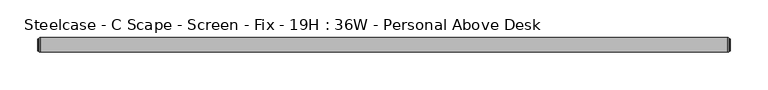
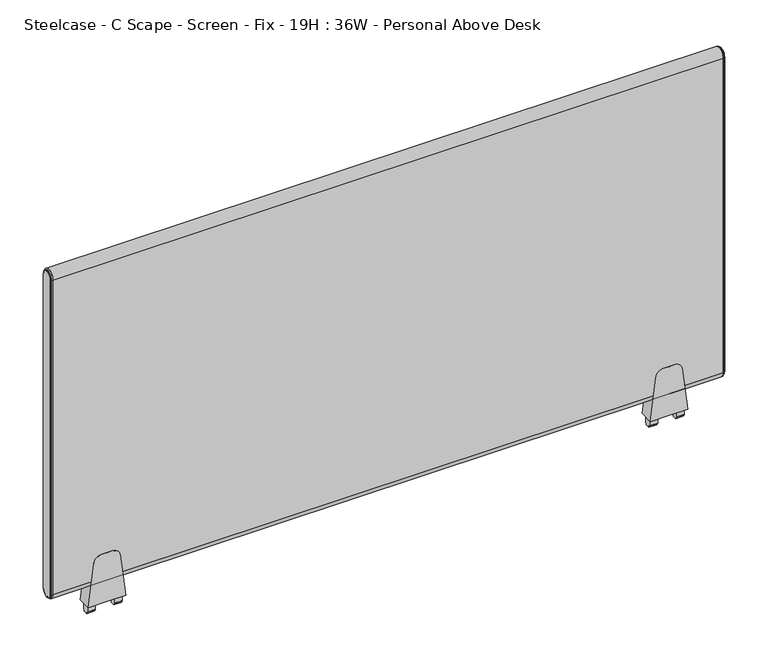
"""IFC4 building model written with IfcOpenShell, lengths in millimetres: furniture geometry, Steelcase - C Scape - Screen - Fix - 19H : 36W - Personal Above Desk."""

from ifc_helpers import new_model, si_unit, point, frame, frame_2d, origin, place, context, project, spatial, polyline, circle_curve, ellipse_curve, trimmed, segment, composite_curve, outline, extrude, source, transform, mapped, element, save
from ifc_brep_helpers import plane_surface, cylinder_surface, revolved_surface, advanced_brep


def steelcase_c_scape_screen_fix_19h_36w_personal_above_desk_54f1fec5(model_context):
    return source(origin(), model_context, "Body", "SolidModel", [
        extrude(outline(composite_curve([segment(polyline([(723.811112, 101.4730434), (784.1362421, 94.0661495)]), True, "CONTINUOUS"), segment(trimmed(circle_curve(frame_2d((782.8143718, 83.300233)), 10.8467645), [point((784.1362421, 94.0661495))], [point((793.6611362, 83.300233))], False, "CARTESIAN"), True, "CONTINUOUS"), segment(polyline([(793.6611362, 83.300233), (793.6611362, 76.2001674), (793.6611362, 69.1001018)]), True, "CONTINUOUS"), segment(trimmed(circle_curve(frame_2d((782.8143718, 69.1001018)), 10.8467645), [point((793.6611362, 69.1001018))], [point((784.1362421, 58.3341853))], False, "CARTESIAN"), True, "CONTINUOUS"), segment(polyline([(784.1362421, 58.3341853), (723.811112, 50.9272915), (723.811112, 76.2001674), (723.811112, 101.4730434)]), True, "CONTINUOUS")], self_intersect=False)), frame((0.0, -9.525, 0.0), z_axis=(0.0, 1.0, 0.0), x_axis=(0.0, 0.0, 1.0)), (0.0, 0.0, 1.0), 19.05),
        extrude(outline(polyline([(4.5465975, 723.811112), (4.5465975, 713.9051033), (4.0139265, 713.0186748), (2.9972008, 713.0186748), (2.9972008, 710.7834188), (0.0, 710.692), (-2.9972008, 710.7834188), (-2.9972008, 713.0186748), (-4.0139265, 713.0186748), (-4.5465975, 713.9051033), (-4.5465975, 723.811112), (0.0, 723.811112), (4.5465975, 723.811112)])), frame((88.9267162, 0.0, 0.0), z_axis=(1.0, 0.0, 0.0), x_axis=(0.0, 1.0, 0.0)), (0.0, 0.0, 1.0), 10.7813187),
        extrude(outline(polyline([(4.5465975, 723.811112), (4.5465975, 713.9051033), (4.0139265, 713.0186748), (2.9972008, 713.0186748), (2.9972008, 710.7834188), (0.0, 710.692), (-2.9972008, 710.7834188), (-2.9972008, 713.0186748), (-4.0139265, 713.0186748), (-4.5465975, 713.9051033), (-4.5465975, 723.811112), (0.0, 723.811112), (4.5465975, 723.811112)])), frame((52.6923, 0.0, 0.0), z_axis=(1.0, 0.0, 0.0), x_axis=(0.0, 1.0, 0.0)), (0.0, 0.0, 1.0), 10.7813187),
        extrude(outline(composite_curve([segment(polyline([(723.811112, 862.7107132), (784.1362421, 855.3038193)]), True, "CONTINUOUS"), segment(trimmed(circle_curve(frame_2d((782.8143718, 844.5379028)), 10.8467645), [point((784.1362421, 855.3038193))], [point((793.6611362, 844.5379028))], False, "CARTESIAN"), True, "CONTINUOUS"), segment(polyline([(793.6611362, 844.5379028), (793.6611362, 837.4378372), (793.6611362, 830.3377716)]), True, "CONTINUOUS"), segment(trimmed(circle_curve(frame_2d((782.8143718, 830.3377716)), 10.8467645), [point((793.6611362, 830.3377716))], [point((784.1362421, 819.5718551))], False, "CARTESIAN"), True, "CONTINUOUS"), segment(polyline([(784.1362421, 819.5718551), (723.811112, 812.1649612), (723.811112, 837.4378372), (723.811112, 862.7107132)]), True, "CONTINUOUS")], self_intersect=False)), frame((0.0, -9.525, 0.0), z_axis=(0.0, 1.0, 0.0), x_axis=(0.0, 0.0, 1.0)), (0.0, 0.0, 1.0), 19.05),
        extrude(outline(polyline([(4.5465975, 723.811112), (4.5465975, 713.9051033), (4.0139265, 713.0186748), (2.9972008, 713.0186748), (2.9972008, 710.7834188), (0.0, 710.692), (-2.9972008, 710.7834188), (-2.9972008, 713.0186748), (-4.0139265, 713.0186748), (-4.5465975, 713.9051033), (-4.5465975, 723.811112), (0.0, 723.811112), (4.5465975, 723.811112)])), frame((850.164386, 0.0, 0.0), z_axis=(1.0, 0.0, 0.0), x_axis=(0.0, 1.0, 0.0)), (0.0, 0.0, 1.0), 10.7813187),
        extrude(outline(polyline([(4.5465975, 723.811112), (4.5465975, 713.9051033), (4.0139265, 713.0186748), (2.9972008, 713.0186748), (2.9972008, 710.7834188), (0.0, 710.692), (-2.9972008, 710.7834188), (-2.9972008, 713.0186748), (-4.0139265, 713.0186748), (-4.5465975, 713.9051033), (-4.5465975, 723.811112), (0.0, 723.811112), (4.5465975, 723.811112)])), frame((813.9299698, 0.0, 0.0), z_axis=(1.0, 0.0, 0.0), x_axis=(0.0, 1.0, 0.0)), (0.0, 0.0, 1.0), 10.7813187),
        advanced_brep(
        [(910.8486613, -9.525, 1209.675), (910.8486613, 9.525, 1209.675), (910.8486613, 9.525, 758.825), (910.8486613, -9.525, 758.825), (913.6426613, 7.4929583, 1209.675), (913.6426613, -7.4929583, 1209.675), (913.6426613, -7.4929583, 758.825), (913.6426613, 7.4929583, 758.825), (913.1346545, -8.0009651, 1209.675), (913.1346545, 8.0009651, 1209.675), (911.8646613, 8.0009651, 1209.675), (911.8646613, -8.0009651, 1209.675), (911.8646613, -8.8204932, 1209.675), (911.8646613, 8.8204932, 1209.675), (911.8646613, -8.0009651, 758.825), (913.1346545, -8.0009651, 758.825), (911.8646613, -8.8204932, 758.825), (911.8646613, 8.0009651, 758.825), (913.1346545, 8.0009651, 758.825), (911.8646613, 8.8204932, 758.825)],
        [
            (0, 1, circle_curve(frame((910.8486613, 0.0, 1209.675), z_axis=(-1.0, 0.0, 0.0), x_axis=(0.0, 1.0, 0.0)), 9.525)),
            (1, 2),
            (2, 3, circle_curve(frame((910.8486613, 0.0, 758.825), z_axis=(-1.0, 0.0, 0.0), x_axis=(0.0, -1.0, 0.0)), 9.525)),
            (3, 0),
            (4, 5, circle_curve(frame((913.6426613, 0.0, 1209.675), z_axis=(1.0, 0.0, 0.0), x_axis=(0.0, 1.0, 0.0)), 7.4929583)),
            (5, 6),
            (6, 7, circle_curve(frame((913.6426613, 0.0, 758.825), z_axis=(1.0, 0.0, 0.0), x_axis=(0.0, -1.0, 0.0)), 7.4929583)),
            (7, 4),
            (8, 9, circle_curve(frame((913.1346545, 0.0, 1209.675), z_axis=(-1.0, 0.0, 0.0), x_axis=(0.0, 1.0, 0.0)), 8.0009651)),
            (9, 10),
            (10, 11, circle_curve(frame((911.8646613, 0.0, 1209.675), z_axis=(1.0, 0.0, 0.0), x_axis=(0.0, 1.0, 0.0)), 8.0009651)),
            (11, 8),
            (8, 5, circle_curve(frame((913.1346545, -7.4929583, 1209.675), z_axis=(0.0, 0.0, 1.0), x_axis=(0.0, -1.0, 0.0)), 0.5080068)),
            (4, 9, circle_curve(frame((913.1346545, 7.4929583, 1209.675), z_axis=(0.0, 0.0, 1.0), x_axis=(0.0, 1.0, 0.0)), 0.5080068)),
            (12, 13, circle_curve(frame((911.8646613, 0.0, 1209.675), z_axis=(-1.0, 0.0, 0.0), x_axis=(0.0, 1.0, 0.0)), 8.8204932)),
            (13, 1, circle_curve(frame((910.7806211, 8.3420139, 1209.675), z_axis=(0.0, 0.0, 1.0), x_axis=(0.0, 1.0, 0.0)), 1.1849411)),
            (0, 12, circle_curve(frame((910.7806211, -8.3420139, 1209.675), z_axis=(0.0, 0.0, 1.0), x_axis=(0.0, -1.0, 0.0)), 1.1849411)),
            (11, 14),
            (14, 15),
            (15, 8),
            (15, 6, circle_curve(frame((913.1346545, -7.4929583, 758.825), z_axis=(0.0, 0.0, 1.0), x_axis=(0.0, -1.0, 0.0)), 0.5080068)),
            (3, 16, circle_curve(frame((910.7806211, -8.3420139, 758.825), z_axis=(0.0, 0.0, 1.0), x_axis=(0.0, -1.0, 0.0)), 1.1849411)),
            (16, 12),
            (14, 17, circle_curve(frame((911.8646613, 0.0, 758.825), z_axis=(1.0, 0.0, 0.0), x_axis=(0.0, -1.0, 0.0)), 8.0009651)),
            (17, 18),
            (18, 15, circle_curve(frame((913.1346545, 0.0, 758.825), z_axis=(-1.0, 0.0, 0.0), x_axis=(0.0, -1.0, 0.0)), 8.0009651)),
            (18, 7, circle_curve(frame((913.1346545, 7.4929583, 758.825), z_axis=(0.0, 0.0, -1.0), x_axis=(0.0, 1.0, 0.0)), 0.5080068)),
            (2, 19, circle_curve(frame((910.7806211, 8.3420139, 758.825), z_axis=(0.0, 0.0, -1.0), x_axis=(0.0, 1.0, 0.0)), 1.1849411)),
            (19, 16, circle_curve(frame((911.8646613, 0.0, 758.825), z_axis=(-1.0, 0.0, 0.0), x_axis=(0.0, -1.0, 0.0)), 8.8204932)),
            (9, 18),
            (17, 10),
            (13, 19),
        ],
        [
            plane_surface(frame((910.8486613, -6.3509705, 1209.675), z_axis=(-1.0, 0.0, 0.0), x_axis=(0.0, 0.0, 1.0))),
            plane_surface(frame((913.6426613, -6.3509705, 1209.675), z_axis=(1.0, 0.0, 0.0), x_axis=(0.0, 0.0, -1.0))),
            cylinder_surface(frame((910.8486613, 0.0, 1209.675), z_axis=(1.0, 0.0, 0.0), x_axis=(0.0, 1.0, 0.0)), 8.0009651),
            revolved_surface(trimmed(ellipse_curve(frame((913.1346545, 7.4929583, 1209.675), z_axis=(0.0, 0.0, -1.0), x_axis=(0.0, 1.0, 0.0)), 0.5080068, 0.5080068), [point((913.1346545, 8.0009651, 1209.675))], [point((913.6426613, 7.4929583, 1209.675))], True, "CARTESIAN"), (910.8486613, 0.0, 1209.675), (1.0, 0.0, 0.0)),
            revolved_surface(trimmed(ellipse_curve(frame((910.7806211, 8.3420139, 1209.675), z_axis=(0.0, 0.0, -1.0), x_axis=(0.0, 1.0, 0.0)), 1.1849411, 1.1849411), [point((910.8486613, 9.525, 1209.675))], [point((911.8646613, 8.8204932, 1209.675))], True, "CARTESIAN"), (910.8486613, 0.0, 1209.675), (1.0, 0.0, 0.0)),
            plane_surface(frame((911.8646613, -8.0009651, 1209.675), z_axis=(0.0, -1.0, 0.0), x_axis=(0.0, 0.0, -1.0))),
            cylinder_surface(frame((913.1346545, -7.4929583, 1209.675), z_axis=(0.0, 0.0, 1.0), x_axis=(0.0, -1.0, 0.0)), 0.5080068),
            cylinder_surface(frame((910.7806211, -8.3420139, 1209.675), z_axis=(0.0, 0.0, 1.0), x_axis=(0.0, -1.0, 0.0)), 1.1849411),
            cylinder_surface(frame((910.8486613, 0.0, 758.825), z_axis=(1.0, 0.0, 0.0), x_axis=(0.0, -1.0, 0.0)), 8.0009651),
            revolved_surface(trimmed(ellipse_curve(frame((913.1346545, -7.4929583, 758.825), z_axis=(0.0, 0.0, 1.0), x_axis=(0.0, -1.0, 0.0)), 0.5080068, 0.5080068), [point((913.1346545, -8.0009651, 758.825))], [point((913.6426613, -7.4929583, 758.825))], True, "CARTESIAN"), (910.8486613, 0.0, 758.825), (1.0, 0.0, 0.0)),
            revolved_surface(trimmed(ellipse_curve(frame((910.7806211, -8.3420139, 758.825), z_axis=(0.0, 0.0, 1.0), x_axis=(0.0, -1.0, 0.0)), 1.1849411, 1.1849411), [point((910.8486613, -9.525, 758.825))], [point((911.8646613, -8.8204932, 758.825))], True, "CARTESIAN"), (910.8486613, 0.0, 758.825), (1.0, 0.0, 0.0)),
            plane_surface(frame((911.8646613, 8.0009651, 758.825), z_axis=(0.0, 1.0, 0.0), x_axis=(0.0, 0.0, 1.0))),
            cylinder_surface(frame((913.1346545, 7.4929583, 758.825), z_axis=(0.0, 0.0, -1.0), x_axis=(0.0, 1.0, 0.0)), 0.5080068),
            cylinder_surface(frame((910.7806211, 8.3420139, 758.825), z_axis=(0.0, 0.0, -1.0), x_axis=(0.0, 1.0, 0.0)), 1.1849411),
            plane_surface(frame((911.8646613, 8.8204932, 758.825), z_axis=(1.0, 0.0, 0.0), x_axis=(0.0, 0.0, 1.0))),
        ],
        [
            (0, [[1, 2, 3, 4]]),
            (1, [[5, 6, 7, 8]]),
            (2, [[9, 10, 11, 12]]),
            (3, [[-9, 13, -5, 14]]),
            (4, [[15, 16, -1, 17]]),
            (5, [[-12, 18, 19, 20]]),
            (6, [[-13, -20, 21, -6]]),
            (7, [[-17, -4, 22, 23]]),
            (8, [[-19, 24, 25, 26]]),
            (9, [[-21, -26, 27, -7]]),
            (10, [[-22, -3, 28, 29]]),
            (11, [[-10, 30, -25, 31]]),
            (12, [[-14, -8, -27, -30]]),
            (13, [[-16, 32, -28, -2]]),
            (14, [[-15, -23, -29, -32], [-11, -31, -24, -18]]),
        ],
    ),
        advanced_brep(
        [(2.7940155, 9.525, 1209.675), (2.7940155, -9.525, 1209.675), (2.7940155, -9.525, 758.825), (2.7940155, 9.525, 758.825), (0.0, -7.4929583, 1209.675), (0.0, 7.4929583, 1209.675), (0.0, 7.4929583, 758.825), (0.0, -7.4929583, 758.825), (1.778, 8.8204932, 1209.675), (1.778, -8.8204932, 1209.675), (0.5080068, -8.0009651, 1209.675), (0.5080068, 8.0009651, 1209.675), (1.778, -8.0009651, 1209.675), (1.778, 8.0009651, 1209.675), (1.778, -8.8204932, 758.825), (0.5080068, -8.0009651, 758.825), (1.778, -8.0009651, 758.825), (1.778, 8.8204932, 758.825), (0.5080068, 8.0009651, 758.825), (1.778, 8.0009651, 758.825)],
        [
            (0, 1, circle_curve(frame((2.7940155, 0.0, 1209.675), z_axis=(1.0, 0.0, 0.0), x_axis=(0.0, 1.0, 0.0)), 9.525)),
            (1, 2),
            (2, 3, circle_curve(frame((2.7940155, 0.0, 758.825), z_axis=(1.0, 0.0, 0.0), x_axis=(0.0, -1.0, 0.0)), 9.525)),
            (3, 0),
            (4, 5, circle_curve(frame((0.0, 0.0, 1209.675), z_axis=(-1.0, 0.0, 0.0), x_axis=(0.0, 1.0, 0.0)), 7.4929583)),
            (5, 6),
            (6, 7, circle_curve(frame((0.0, 0.0, 758.825), z_axis=(-1.0, 0.0, 0.0), x_axis=(0.0, -1.0, 0.0)), 7.4929583)),
            (7, 4),
            (0, 8, circle_curve(frame((2.8620402, 8.3420139, 1209.675), z_axis=(0.0, 0.0, 1.0), x_axis=(0.0, -1.0, 0.0)), 1.1849411)),
            (8, 9, circle_curve(frame((1.778, 0.0, 1209.675), z_axis=(1.0, 0.0, 0.0), x_axis=(0.0, 1.0, 0.0)), 8.8204932)),
            (9, 1, circle_curve(frame((2.8620402, -8.3420139, 1209.675), z_axis=(0.0, 0.0, 1.0), x_axis=(0.0, 1.0, 0.0)), 1.1849411)),
            (10, 11, circle_curve(frame((0.5080068, 0.0, 1209.675), z_axis=(-1.0, 0.0, 0.0), x_axis=(0.0, 1.0, 0.0)), 8.0009651)),
            (11, 5, circle_curve(frame((0.5080068, 7.4929583, 1209.675), z_axis=(0.0, 0.0, 1.0), x_axis=(0.0, -1.0, 0.0)), 0.5080068)),
            (4, 10, circle_curve(frame((0.5080068, -7.4929583, 1209.675), z_axis=(0.0, 0.0, 1.0), x_axis=(0.0, 1.0, 0.0)), 0.5080068)),
            (10, 12),
            (12, 13, circle_curve(frame((1.778, 0.0, 1209.675), z_axis=(-1.0, 0.0, 0.0), x_axis=(0.0, 1.0, 0.0)), 8.0009651)),
            (13, 11),
            (9, 14),
            (14, 2, circle_curve(frame((2.8620402, -8.3420139, 758.825), z_axis=(0.0, 0.0, 1.0), x_axis=(0.0, 1.0, 0.0)), 1.1849411)),
            (7, 15, circle_curve(frame((0.5080068, -7.4929583, 758.825), z_axis=(0.0, 0.0, 1.0), x_axis=(0.0, 1.0, 0.0)), 0.5080068)),
            (15, 10),
            (15, 16),
            (16, 12),
            (14, 17, circle_curve(frame((1.778, 0.0, 758.825), z_axis=(1.0, 0.0, 0.0), x_axis=(0.0, -1.0, 0.0)), 8.8204932)),
            (17, 3, circle_curve(frame((2.8620402, 8.3420139, 758.825), z_axis=(0.0, 0.0, -1.0), x_axis=(0.0, -1.0, 0.0)), 1.1849411)),
            (6, 18, circle_curve(frame((0.5080068, 7.4929583, 758.825), z_axis=(0.0, 0.0, -1.0), x_axis=(0.0, -1.0, 0.0)), 0.5080068)),
            (18, 15, circle_curve(frame((0.5080068, 0.0, 758.825), z_axis=(-1.0, 0.0, 0.0), x_axis=(0.0, -1.0, 0.0)), 8.0009651)),
            (18, 19),
            (19, 16, circle_curve(frame((1.778, 0.0, 758.825), z_axis=(-1.0, 0.0, 0.0), x_axis=(0.0, -1.0, 0.0)), 8.0009651)),
            (8, 17),
            (19, 13),
            (11, 18),
        ],
        [
            plane_surface(frame((2.7940155, -6.3509705, 1209.675), z_axis=(1.0, 0.0, 0.0), x_axis=(0.0, 0.0, -1.0))),
            plane_surface(frame((0.0, -6.3509705, 1209.675), z_axis=(-1.0, 0.0, 0.0), x_axis=(0.0, 0.0, 1.0))),
            revolved_surface(trimmed(ellipse_curve(frame((2.8620402, 8.3420139, 1209.675), z_axis=(0.0, 0.0, -1.0), x_axis=(0.0, -1.0, 0.0)), 1.1849411, 1.1849411), [point((1.778, 8.8204932, 1209.675))], [point((2.794, 9.525, 1209.675))], True, "CARTESIAN"), (2.794, 0.0, 1209.675), (1.0, 0.0, 0.0)),
            revolved_surface(trimmed(ellipse_curve(frame((0.5080068, 7.4929583, 1209.675), z_axis=(0.0, 0.0, -1.0), x_axis=(0.0, -1.0, 0.0)), 0.5080068, 0.5080068), [point((0.0, 7.4929583, 1209.675))], [point((0.5080068, 8.0009651, 1209.675))], True, "CARTESIAN"), (2.794, 0.0, 1209.675), (1.0, 0.0, 0.0)),
            cylinder_surface(frame((2.794, 0.0, 1209.675), z_axis=(1.0, 0.0, 0.0), x_axis=(0.0, 1.0, 0.0)), 8.0009651),
            cylinder_surface(frame((2.8620402, -8.3420139, 1209.675), z_axis=(0.0, 0.0, 1.0), x_axis=(0.0, 1.0, 0.0)), 1.1849411),
            cylinder_surface(frame((0.5080068, -7.4929583, 1209.675), z_axis=(0.0, 0.0, 1.0), x_axis=(0.0, 1.0, 0.0)), 0.5080068),
            plane_surface(frame((0.5080068, -8.0009651, 1209.675), z_axis=(0.0, -1.0, 0.0), x_axis=(0.0, 0.0, -1.0))),
            revolved_surface(trimmed(ellipse_curve(frame((2.8620402, -8.3420139, 758.825), z_axis=(0.0, 0.0, 1.0), x_axis=(0.0, 1.0, 0.0)), 1.1849411, 1.1849411), [point((1.778, -8.8204932, 758.825))], [point((2.794, -9.525, 758.825))], True, "CARTESIAN"), (2.794, 0.0, 758.825), (1.0, 0.0, 0.0)),
            revolved_surface(trimmed(ellipse_curve(frame((0.5080068, -7.4929583, 758.825), z_axis=(0.0, 0.0, 1.0), x_axis=(0.0, 1.0, 0.0)), 0.5080068, 0.5080068), [point((0.0, -7.4929583, 758.825))], [point((0.5080068, -8.0009651, 758.825))], True, "CARTESIAN"), (2.794, 0.0, 758.825), (1.0, 0.0, 0.0)),
            cylinder_surface(frame((2.794, 0.0, 758.825), z_axis=(1.0, 0.0, 0.0), x_axis=(0.0, -1.0, 0.0)), 8.0009651),
            plane_surface(frame((1.778, 8.0009651, 758.825), z_axis=(-1.0, 0.0, 0.0), x_axis=(0.0, 0.0, 1.0))),
            cylinder_surface(frame((2.8620402, 8.3420139, 758.825), z_axis=(0.0, 0.0, -1.0), x_axis=(0.0, -1.0, 0.0)), 1.1849411),
            cylinder_surface(frame((0.5080068, 7.4929583, 758.825), z_axis=(0.0, 0.0, -1.0), x_axis=(0.0, -1.0, 0.0)), 0.5080068),
            plane_surface(frame((0.5080068, 8.0009651, 758.825), z_axis=(0.0, 1.0, 0.0), x_axis=(0.0, 0.0, 1.0))),
        ],
        [
            (0, [[1, 2, 3, 4]]),
            (1, [[5, 6, 7, 8]]),
            (2, [[-1, 9, 10, 11]]),
            (3, [[12, 13, -5, 14]]),
            (4, [[-12, 15, 16, 17]]),
            (5, [[-11, 18, 19, -2]]),
            (6, [[-14, -8, 20, 21]]),
            (7, [[-15, -21, 22, 23]]),
            (8, [[-19, 24, 25, -3]]),
            (9, [[-20, -7, 26, 27]]),
            (10, [[-22, -27, 28, 29]]),
            (11, [[-10, 30, -24, -18], [-16, -23, -29, 31]]),
            (12, [[-9, -4, -25, -30]]),
            (13, [[-13, 32, -26, -6]]),
            (14, [[-17, -31, -28, -32]]),
        ],
    ),
        extrude(outline(composite_curve([segment(trimmed(circle_curve(frame_2d((0.0, 1209.675)), 9.525), [point((-9.525, 1209.675))], [point((9.525, 1209.675))], False, "CARTESIAN"), True, "CONTINUOUS"), segment(polyline([(9.525, 1209.675), (9.525, 758.825)]), True, "CONTINUOUS"), segment(trimmed(circle_curve(frame_2d((0.0, 758.825)), 9.525), [point((9.525, 758.825))], [point((-9.525, 758.825))], False, "CARTESIAN"), True, "CONTINUOUS"), segment(polyline([(-9.525, 758.825), (-9.525, 1209.675)]), True, "CONTINUOUS")], self_intersect=False)), frame((2.794, 0.0, 0.0), z_axis=(1.0, 0.0, 0.0), x_axis=(0.0, 1.0, 0.0)), (0.0, 0.0, 1.0), 908.0546613),
    ])


if __name__ == "__main__":
    model = new_model("IFC4")
    model_context = context("Model", 3, world=origin())
    ifc_project = project(units=[si_unit("LENGTHUNIT", "METRE", prefix="MILLI")], contexts=[model_context])
    site = spatial("IfcSite", under=ifc_project)
    building = spatial("IfcBuilding", under=site)
    placement = place(None, origin())
    steelcase_c_scape_screen_fix_19h_36w_personal_above_desk_shape = steelcase_c_scape_screen_fix_19h_36w_personal_above_desk_54f1fec5(model_context)
    element("IfcFurniture", 1, ObjectType="Steelcase - C Scape - Screen - Fix - 19H : 36W - Personal Above Desk", at=placement, inside=building, context=model_context, shape_type="MappedRepresentation", body=[
        mapped(steelcase_c_scape_screen_fix_19h_36w_personal_above_desk_shape, transform((0.0, 0.0, 0.0), x_axis=(1.0, 0.0, 0.0), y_axis=(0.0, 1.0, 0.0), z_axis=(0.0, 0.0, 1.0))),
    ])
    save(model, "model.ifc")
